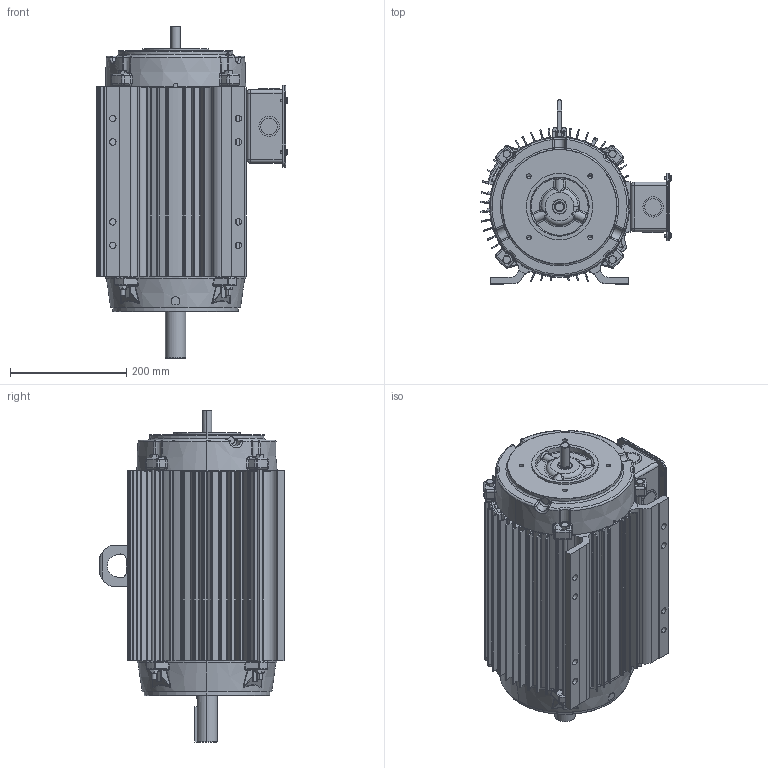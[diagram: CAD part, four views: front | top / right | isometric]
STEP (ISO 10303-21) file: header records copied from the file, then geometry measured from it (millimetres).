
FILE_DESCRIPTION (( 'STEP AP203' ), '1' );
FILE_NAME ('SS330105-1275-NO COVER_RevA.STEP', '2018-10-04T15:32:00', ( 'RBC' ), ( 'RBC' ), 'SwSTEP 2.0', 'SolidWorks 2015', '' );
FILE_SCHEMA (( 'CONFIG_CONTROL_DESIGN' ));
Products named in the file (1): SS330105-1275-NO COVER_RevA
Bounding box: 329.1 x 316.74 x 570.99 mm (x, y, z)
Volume: 4642175.5 mm3; surface area: 1711614.9 mm2
Topology: 26 solids, 26 shells, 3641 faces, 9310 edges, 5704 vertices
Faces by surface type: cylinder 996, plane 953, torus 526, cone 495, bspline 467, sphere 204
Entity records: 135418 total; most frequent: CARTESIAN_POINT 51194, ORIENTED_EDGE 18452, DIRECTION 17250, EDGE_CURVE 9226, AXIS2_PLACEMENT_3D 7152, VERTEX_POINT 5696, CIRCLE 3977, EDGE_LOOP 3808
